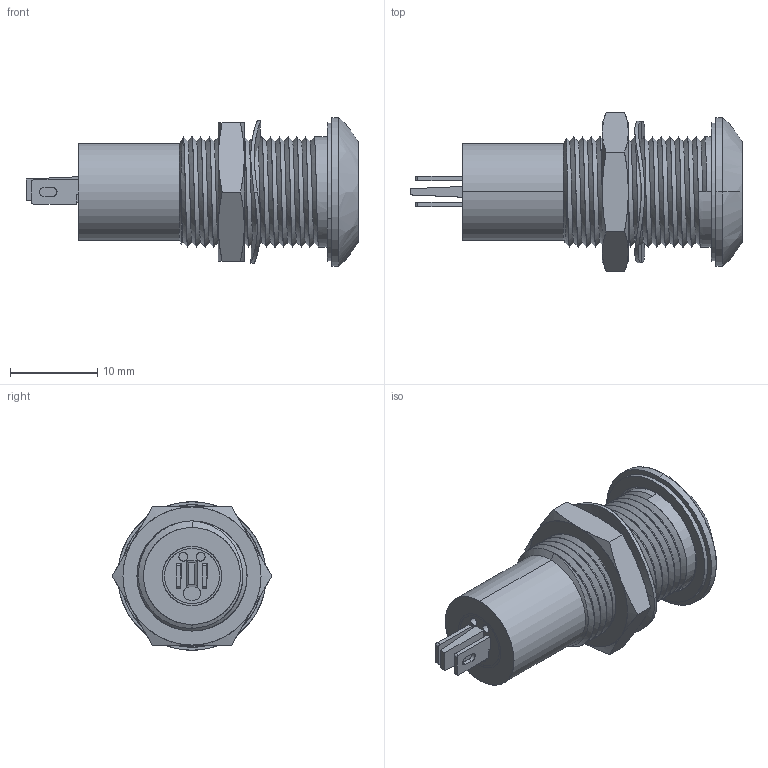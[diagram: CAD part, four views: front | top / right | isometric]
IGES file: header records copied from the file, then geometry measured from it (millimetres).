
Start section: SolidWorks IGES file using analytic representation for surfaces
Global section: file name: G:\Marl\DESIGN\Paul Robson\STEP-IGES FILES\699 Series\699 Series  Above 50V.IGS; native system: SolidWorks 2016; preprocessor: SolidWorks 2016; author: Paulr; date: 160804.161837; units: millimetre
Bounding box: 38 x 18.24 x 17 mm (x, y, z)
Surface area: 4138.5 mm2 (no closed solid volume)
Topology: 0 solids, 0 shells, 403 faces, 5002 edges, 5002 vertices
Faces by surface type: bspline 253, revolution 150
